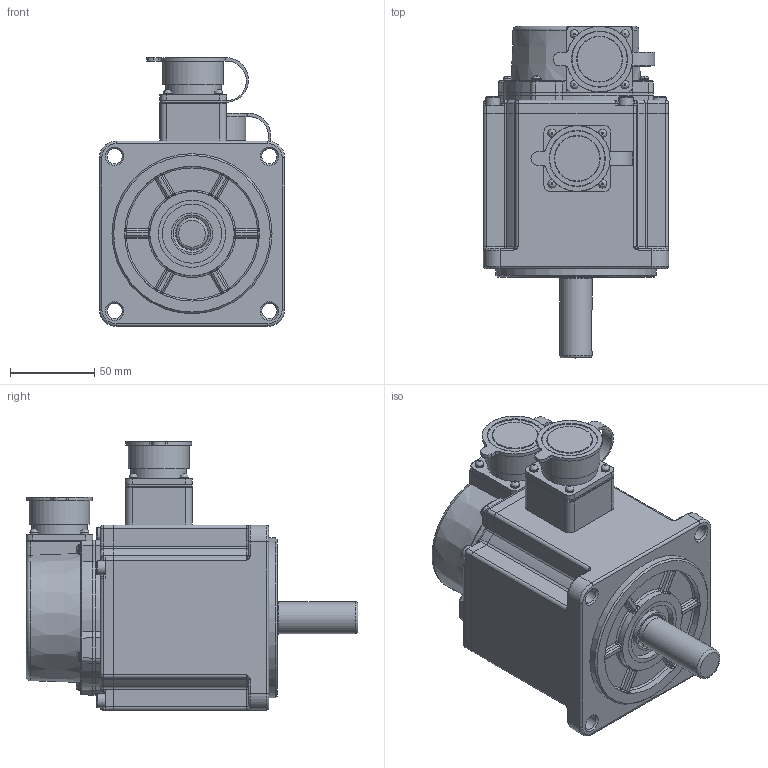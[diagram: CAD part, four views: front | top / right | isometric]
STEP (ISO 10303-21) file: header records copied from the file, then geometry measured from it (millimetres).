
FILE_DESCRIPTION(/* description */ (''),/* implementation_level */ '2;1');
FILE_NAME(/* name */ '28K 4N.stp',/* time_stamp */ '2024-04-19T09:35:55+08:00',/* author */ (''),/* organization */ (''),/* preprocessor_version */ 'ST-DEVELOPER v18.1',/* originating_system */ 'SIEMENS PLM Software NX 2000',/* authorisation */ '');
FILE_SCHEMA (('AUTOMOTIVE_DESIGN { 1 0 10303 214 3 1 1 1 }'));
Length unit declared in the file: millimetre
Products named in the file (1): 92504378DBD25y06
Bounding box: 110 x 197 x 159.5 mm (x, y, z)
Volume: 1363580.5 mm3; surface area: 197815.2 mm2
Topology: 26 solids, 29 shells, 1117 faces, 2608 edges, 1543 vertices
Faces by surface type: cylinder 413, plane 372, torus 108, bspline 97, cone 67, sphere 60
Full cylindrical faces by diameter (mm): 2.5 x10, 2.8 x1, 3 x4, 3.5 x1, 4 x3, 4.1 x16, 4.2 x3, 4.826 x4, 5 x13, 5.5 x3, 8.5 x4, 9 x4, 19 x1, 19.6 x1, 20 x1, 22.288 x1, 24 x1, 24.616 x1, 27 x4, 28 x1, 30 x3, 33 x6, 35 x1, 36 x2, 40 x2, 95 x1, 100 x1, 104 x1
Entity records: 34019 total; most frequent: CARTESIAN_POINT 9631, DIRECTION 5271, ORIENTED_EDGE 4656, EDGE_CURVE 2328, AXIS2_PLACEMENT_3D 2173, VERTEX_POINT 1485, EDGE_LOOP 1394, CIRCLE 1128
